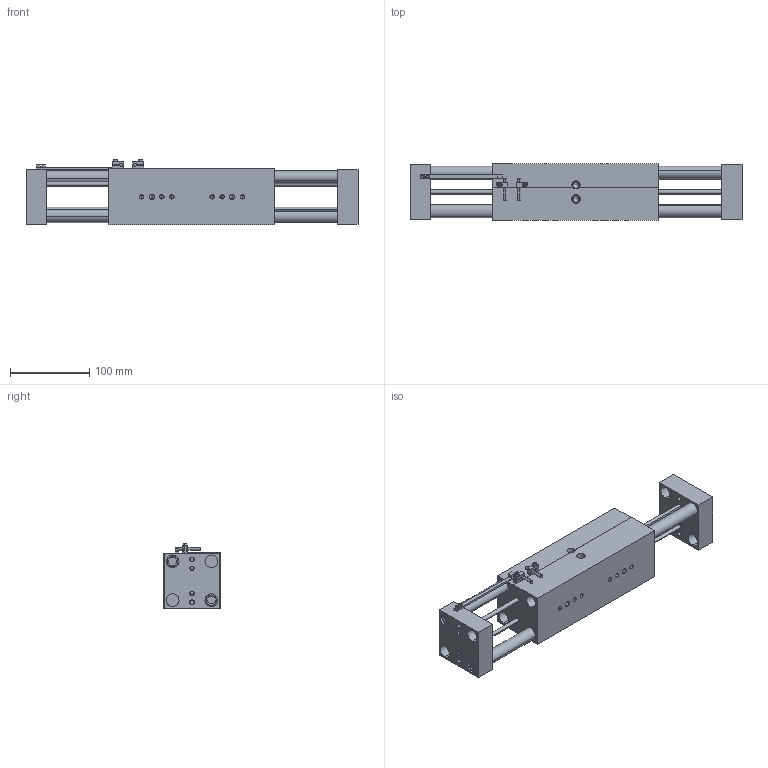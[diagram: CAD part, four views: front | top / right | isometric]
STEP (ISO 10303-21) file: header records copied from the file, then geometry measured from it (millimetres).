
FILE_DESCRIPTION (( 'STEP AP203' ), '1' );
FILE_NAME ('AGW-625-6 OPEN in MM.STEP', '2014-11-25T15:56:31', ( 'setup' ), ( '' ), 'SwSTEP 2.0', 'SolidWorks 2013', '' );
FILE_SCHEMA (( 'CONFIG_CONTROL_DESIGN' ));
Length unit declared in the file: millimetre
Products named in the file (8): AGW-625-6 TOOL PLATE; AGW-625-6 SENSOR BLOCK; AGW-625-6 BODY; AGW-625-6 SENSOR; AGW-625-6 PROD; AGW-625-6 GUIDE ROD; AGW-625-6 SENSOR FLAG; AGW-625-6 OPEN in MM
Assembly tree (16 placements, depth 2):
  AGW-625-6 OPEN in MM
    AGW-625-6 BODY
    AGW-625-6 TOOL PLATE  x2
    AGW-625-6 SENSOR BLOCK  x2
    AGW-625-6 SENSOR  x2
    AGW-625-6 PROD  x4
    AGW-625-6 GUIDE ROD  x4
    AGW-625-6 SENSOR FLAG
Bounding box: 419.1 x 71.12 x 83.19 mm (x, y, z)
Volume: 1184277.9 mm3; surface area: 207726.1 mm2
Topology: 20 solids, 20 shells, 393 faces, 934 edges, 574 vertices
Faces by surface type: plane 161, cylinder 138, cone 82, torus 12
Entity records: 8620 total; most frequent: DIRECTION 1410, CARTESIAN_POINT 1276, ORIENTED_EDGE 1204, EDGE_CURVE 602, AXIS2_PLACEMENT_3D 528, VERTEX_POINT 380, LINE 354, VECTOR 354
